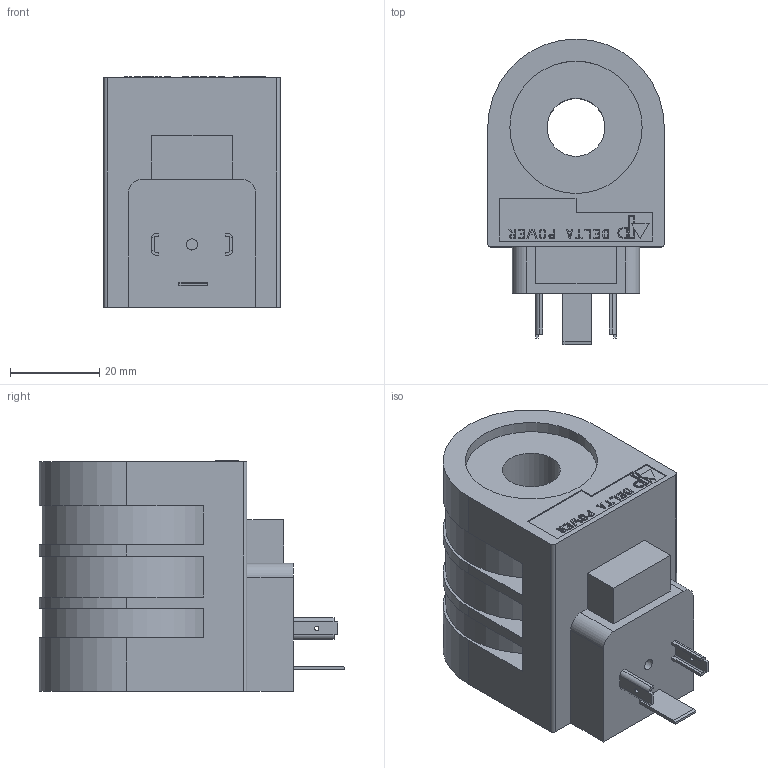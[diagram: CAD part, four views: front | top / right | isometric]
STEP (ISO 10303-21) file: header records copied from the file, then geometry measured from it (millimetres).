
FILE_DESCRIPTION((''),'2;1');
FILE_NAME('U:\Solid model CD\Solid model full\Coils\STEP\DHC.stp','2009-01-16T14:59:39',('Dan'),(''),'Autodesk Inventor 2009','Autodesk Inventor 2009','');
FILE_SCHEMA(('AUTOMOTIVE_DESIGN { 1 0 10303 214 1 1 1 1 }'));
Length unit declared in the file: inch
Products named in the file (1): DHC
Bounding box: 39.62 x 68.58 x 51.82 mm (x, y, z)
Volume: 82928.7 mm3; surface area: 16975.8 mm2
Topology: 13 solids, 13 shells, 253 faces, 661 edges, 441 vertices
Faces by surface type: plane 210, cylinder 43
Full cylindrical faces by diameter (mm): 0.994 x2, 2.54 x1, 13.005 x1, 29.694 x2
Entity records: 7742 total; most frequent: CARTESIAN_POINT 1348, ORIENTED_EDGE 1308, DIRECTION 1248, EDGE_CURVE 654, VECTOR 568, LINE 568, VERTEX_POINT 440, AXIS2_PLACEMENT_3D 340
